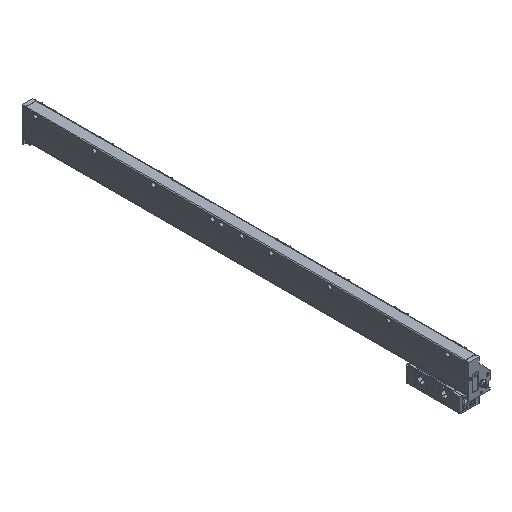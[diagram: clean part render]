
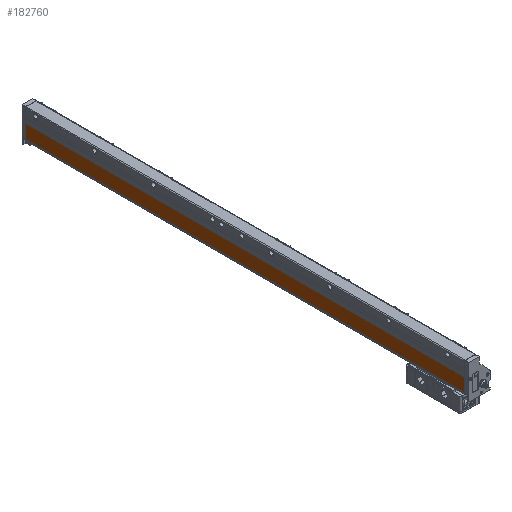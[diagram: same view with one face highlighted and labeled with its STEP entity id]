
A CAD part, isometric view. The second image highlights one B-rep face of the part: STEP entity #182760.
In plain terms, the highlighted planar face has unit normal (-1, 0, 0).
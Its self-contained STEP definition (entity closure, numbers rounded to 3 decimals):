
#70260=CARTESIAN_POINT('',(-2.2,-1587.,
35.5));
#70270=VERTEX_POINT('',#70260);
#70300=CARTESIAN_POINT('',(-2.2,-1387.,
35.5));
#70310=DIRECTION('',(0.,-1.,0.));
#70320=VECTOR('',#70310,1.);
#70330=LINE('',#70300,#70320);
#70340=CARTESIAN_POINT('',(-2.2,-2334.,
35.5));
#70350=VERTEX_POINT('',#70340);
#70360=EDGE_CURVE('',#70270,#70350,#70330,.T.);
#182460=CARTESIAN_POINT('',(-2.2,-1387.,
60.2));
#182470=DIRECTION('',(1.,0.,-0.));
#182480=DIRECTION('',(0.,0.,1.));
#182490=AXIS2_PLACEMENT_3D('',#182460,#182470,#182480);
#182500=PLANE('',#182490);
#182510=ORIENTED_EDGE('',*,*,#70360,.T.);
#182520=CARTESIAN_POINT('',(-2.2,-1587.,
35.5));
#182530=DIRECTION('',(0.,0.,1.));
#182540=VECTOR('',#182530,1.);
#182550=LINE('',#182520,#182540);
#182560=CARTESIAN_POINT('',(-2.2,-1587.,
60.2));
#182570=VERTEX_POINT('',#182560);
#182580=EDGE_CURVE('',#70270,#182570,#182550,.T.);
#182590=ORIENTED_EDGE('',*,*,#182580,.F.);
#182600=CARTESIAN_POINT('',(-2.2,-1387.,
60.2));
#182610=DIRECTION('',(0.,-1.,0.));
#182620=VECTOR('',#182610,1.);
#182630=LINE('',#182600,#182620);
#182640=CARTESIAN_POINT('',(-2.2,-2334.,
60.2));
#182650=VERTEX_POINT('',#182640);
#182660=EDGE_CURVE('',#182570,#182650,#182630,.T.);
#182670=ORIENTED_EDGE('',*,*,#182660,.F.);
#182680=CARTESIAN_POINT('',(-2.2,-2334.,
47.85));
#182690=DIRECTION('',(0.,0.,-1.));
#182700=VECTOR('',#182690,1.);
#182710=LINE('',#182680,#182700);
#182720=EDGE_CURVE('',#182650,#70350,#182710,.T.);
#182730=ORIENTED_EDGE('',*,*,#182720,.F.);
#182740=EDGE_LOOP('',(#182730,#182670,#182590,#182510));
#182750=FACE_OUTER_BOUND('',#182740,.T.);
#182760=ADVANCED_FACE('',(#182750),#182500,.F.);
